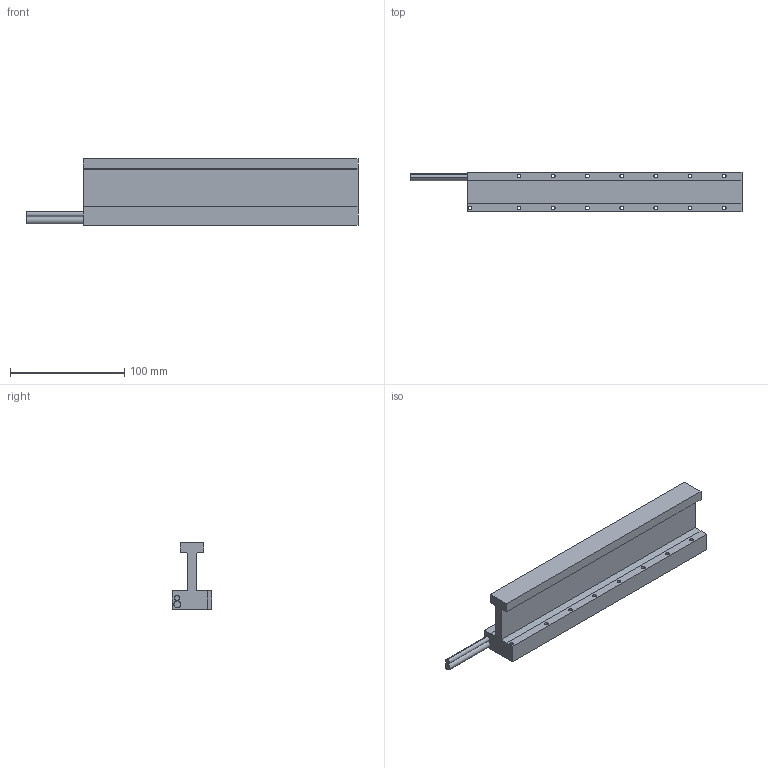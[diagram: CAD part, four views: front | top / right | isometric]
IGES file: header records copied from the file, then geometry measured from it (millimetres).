
Start section: SolidWorks IGES file using analytic representation for surfaces
Global section: file name: C:\Users\admin\Desktop\LM无铁芯U型电机 - 副本\FU300模型图\FU300-241.IGS; native system: SolidWorks 2016; preprocessor: SolidWorks 2016; author: admin; date: 201103.134022; units: millimetre
Bounding box: 291 x 35 x 58.7 mm (x, y, z)
Surface area: 57026.2 mm2 (no closed solid volume)
Topology: 0 solids, 0 shells, 52 faces, 1308 edges, 1308 vertices
Faces by surface type: revolution 34, bspline 18
